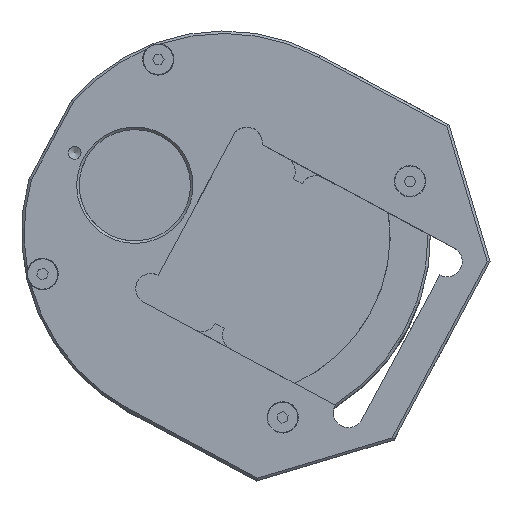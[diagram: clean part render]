
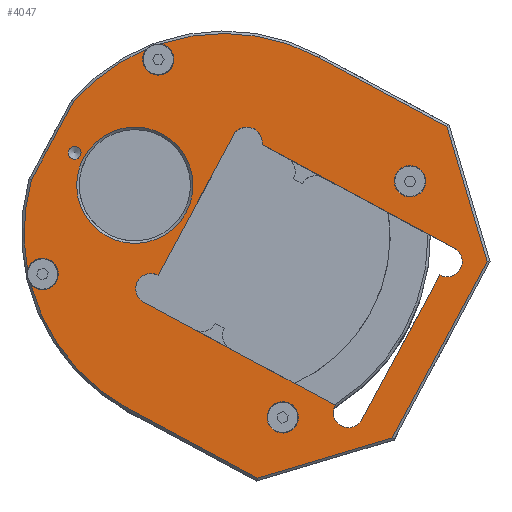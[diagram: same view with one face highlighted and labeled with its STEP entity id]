
A CAD part, top view. The second image highlights one B-rep face of the part: STEP entity #4047.
In plain terms, the highlighted planar face has unit normal (0, 0, 1).
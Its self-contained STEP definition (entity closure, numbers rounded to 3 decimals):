
#248=PLANE('',#13117);
#1309=LINE('',#17504,#2609);
#1340=LINE('',#17617,#2640);
#1341=LINE('',#17619,#2641);
#1342=LINE('',#17621,#2642);
#1343=LINE('',#17623,#2643);
#1344=LINE('',#17625,#2644);
#1345=LINE('',#17633,#2645);
#1346=LINE('',#17648,#2646);
#1347=LINE('',#17652,#2647);
#1348=LINE('',#17656,#2648);
#1349=LINE('',#17658,#2649);
#2609=VECTOR('',#14010,1.);
#2640=VECTOR('',#14117,1.);
#2641=VECTOR('',#14118,1.);
#2642=VECTOR('',#14119,1.);
#2643=VECTOR('',#14120,1.);
#2644=VECTOR('',#14121,1.);
#2645=VECTOR('',#14128,1.);
#2646=VECTOR('',#14143,1.);
#2647=VECTOR('',#14146,1.);
#2648=VECTOR('',#14149,1.);
#2649=VECTOR('',#14150,1.);
#4047=ADVANCED_FACE('',(#5231,#5232,#5233,#5234,#5235,#5236),#248,.T.);
#5231=FACE_BOUND('',#5552,.T.);
#5232=FACE_BOUND('',#5553,.T.);
#5233=FACE_BOUND('',#5554,.T.);
#5234=FACE_BOUND('',#5555,.T.);
#5235=FACE_BOUND('',#5556,.T.);
#5236=FACE_BOUND('',#5557,.T.);
#5552=EDGE_LOOP('',(#6536,#6537,#6538,#6539,#6540,#6541,#6542,#6543,#6544,
#6545,#6546,#6547));
#5553=EDGE_LOOP('',(#6548));
#5554=EDGE_LOOP('',(#6549));
#5555=EDGE_LOOP('',(#6550));
#5556=EDGE_LOOP('',(#6551,#6552,#6553,#6554,#6555,#6556,#6557,#6558,#6559));
#5557=EDGE_LOOP('',(#6560));
#6536=ORIENTED_EDGE('',*,*,#11156,.T.);
#6537=ORIENTED_EDGE('',*,*,#11157,.T.);
#6538=ORIENTED_EDGE('',*,*,#11158,.T.);
#6539=ORIENTED_EDGE('',*,*,#11159,.T.);
#6540=ORIENTED_EDGE('',*,*,#11160,.T.);
#6541=ORIENTED_EDGE('',*,*,#11161,.T.);
#6542=ORIENTED_EDGE('',*,*,#11162,.T.);
#6543=ORIENTED_EDGE('',*,*,#11163,.T.);
#6544=ORIENTED_EDGE('',*,*,#11164,.T.);
#6545=ORIENTED_EDGE('',*,*,#11165,.T.);
#6546=ORIENTED_EDGE('',*,*,#11166,.T.);
#6547=ORIENTED_EDGE('',*,*,#11167,.F.);
#6548=ORIENTED_EDGE('',*,*,#11168,.F.);
#6549=ORIENTED_EDGE('',*,*,#11169,.T.);
#6550=ORIENTED_EDGE('',*,*,#11170,.T.);
#6551=ORIENTED_EDGE('',*,*,#11171,.T.);
#6552=ORIENTED_EDGE('',*,*,#11099,.F.);
#6553=ORIENTED_EDGE('',*,*,#11172,.T.);
#6554=ORIENTED_EDGE('',*,*,#11173,.T.);
#6555=ORIENTED_EDGE('',*,*,#11174,.T.);
#6556=ORIENTED_EDGE('',*,*,#11175,.T.);
#6557=ORIENTED_EDGE('',*,*,#11176,.T.);
#6558=ORIENTED_EDGE('',*,*,#11177,.F.);
#6559=ORIENTED_EDGE('',*,*,#11178,.F.);
#6560=ORIENTED_EDGE('',*,*,#11179,.T.);
#9889=VERTEX_POINT('',#17503);
#9890=VERTEX_POINT('',#17505);
#9932=VERTEX_POINT('',#17615);
#9933=VERTEX_POINT('',#17616);
#9934=VERTEX_POINT('',#17618);
#9935=VERTEX_POINT('',#17620);
#9936=VERTEX_POINT('',#17622);
#9937=VERTEX_POINT('',#17624);
#9938=VERTEX_POINT('',#17626);
#9939=VERTEX_POINT('',#17628);
#9940=VERTEX_POINT('',#17630);
#9941=VERTEX_POINT('',#17632);
#9942=VERTEX_POINT('',#17634);
#9943=VERTEX_POINT('',#17636);
#9944=VERTEX_POINT('',#17639);
#9945=VERTEX_POINT('',#17641);
#9946=VERTEX_POINT('',#17643);
#9947=VERTEX_POINT('',#17645);
#9948=VERTEX_POINT('',#17647);
#9949=VERTEX_POINT('',#17649);
#9950=VERTEX_POINT('',#17651);
#9951=VERTEX_POINT('',#17653);
#9952=VERTEX_POINT('',#17655);
#9953=VERTEX_POINT('',#17657);
#9954=VERTEX_POINT('',#17660);
#11099=EDGE_CURVE('',#9889,#9890,#1309,.T.);
#11156=EDGE_CURVE('',#9932,#9933,#12836,.T.);
#11157=EDGE_CURVE('',#9933,#9934,#1340,.T.);
#11158=EDGE_CURVE('',#9934,#9935,#1341,.T.);
#11159=EDGE_CURVE('',#9935,#9936,#1342,.T.);
#11160=EDGE_CURVE('',#9936,#9937,#1343,.T.);
#11161=EDGE_CURVE('',#9937,#9938,#1344,.T.);
#11162=EDGE_CURVE('',#9938,#9939,#12837,.T.);
#11163=EDGE_CURVE('',#9939,#9940,#12838,.T.);
#11164=EDGE_CURVE('',#9940,#9941,#12839,.T.);
#11165=EDGE_CURVE('',#9941,#9942,#1345,.T.);
#11166=EDGE_CURVE('',#9942,#9943,#12840,.T.);
#11167=EDGE_CURVE('',#9932,#9943,#12841,.T.);
#11168=EDGE_CURVE('',#9944,#9944,#12842,.T.);
#11169=EDGE_CURVE('',#9945,#9945,#12843,.T.);
#11170=EDGE_CURVE('',#9946,#9946,#12844,.T.);
#11171=EDGE_CURVE('',#9947,#9890,#12845,.T.);
#11172=EDGE_CURVE('',#9889,#9948,#12846,.T.);
#11173=EDGE_CURVE('',#9948,#9949,#1346,.T.);
#11174=EDGE_CURVE('',#9949,#9950,#12847,.T.);
#11175=EDGE_CURVE('',#9950,#9951,#1347,.T.);
#11176=EDGE_CURVE('',#9951,#9952,#12848,.T.);
#11177=EDGE_CURVE('',#9953,#9952,#1348,.T.);
#11178=EDGE_CURVE('',#9947,#9953,#1349,.T.);
#11179=EDGE_CURVE('',#9954,#9954,#12849,.T.);
#12836=CIRCLE('',#13103,39.5);
#12837=CIRCLE('',#13104,39.5);
#12838=CIRCLE('',#13105,3.1);
#12839=CIRCLE('',#13106,39.5);
#12840=CIRCLE('',#13107,39.5);
#12841=CIRCLE('',#13108,3.1);
#12842=CIRCLE('',#13109,3.1);
#12843=CIRCLE('',#13110,3.1);
#12844=CIRCLE('',#13111,1.25);
#12845=CIRCLE('',#13112,3.);
#12846=CIRCLE('',#13113,3.);
#12847=CIRCLE('',#13114,3.);
#12848=CIRCLE('',#13115,3.);
#12849=CIRCLE('',#13116,11.5);
#13103=AXIS2_PLACEMENT_3D('',#17614,#14115,#14116);
#13104=AXIS2_PLACEMENT_3D('',#17627,#14122,#14123);
#13105=AXIS2_PLACEMENT_3D('',#17629,#14124,#14125);
#13106=AXIS2_PLACEMENT_3D('',#17631,#14126,#14127);
#13107=AXIS2_PLACEMENT_3D('',#17635,#14129,#14130);
#13108=AXIS2_PLACEMENT_3D('',#17637,#14131,#14132);
#13109=AXIS2_PLACEMENT_3D('',#17638,#14133,#14134);
#13110=AXIS2_PLACEMENT_3D('',#17640,#14135,#14136);
#13111=AXIS2_PLACEMENT_3D('',#17642,#14137,#14138);
#13112=AXIS2_PLACEMENT_3D('',#17644,#14139,#14140);
#13113=AXIS2_PLACEMENT_3D('',#17646,#14141,#14142);
#13114=AXIS2_PLACEMENT_3D('',#17650,#14144,#14145);
#13115=AXIS2_PLACEMENT_3D('',#17654,#14147,#14148);
#13116=AXIS2_PLACEMENT_3D('',#17659,#14151,#14152);
#13117=AXIS2_PLACEMENT_3D('',#17661,#14153,#14154);
#14010=DIRECTION('',(-0.88,0.474,0.));
#14115=DIRECTION('',(0.,0.,1.));
#14116=DIRECTION('',(-0.474,-0.88,0.));
#14117=DIRECTION('',(0.88,-0.474,0.));
#14118=DIRECTION('',(0.958,0.287,0.));
#14119=DIRECTION('',(0.474,0.88,0.));
#14120=DIRECTION('',(-0.287,0.958,0.));
#14121=DIRECTION('',(-0.88,0.474,0.));
#14122=DIRECTION('',(0.,0.,1.));
#14123=DIRECTION('',(-0.474,-0.88,0.));
#14124=DIRECTION('',(0.,0.,-1.));
#14125=DIRECTION('',(-0.918,0.396,0.));
#14126=DIRECTION('',(0.,0.,1.));
#14127=DIRECTION('',(-0.474,-0.88,0.));
#14128=DIRECTION('',(-0.474,-0.88,0.));
#14129=DIRECTION('',(0.,0.,1.));
#14130=DIRECTION('',(-0.474,-0.88,0.));
#14131=DIRECTION('',(0.,0.,1.));
#14132=DIRECTION('',(-0.836,0.549,0.));
#14133=DIRECTION('',(0.,0.,1.));
#14134=DIRECTION('',(-0.474,-0.88,0.));
#14135=DIRECTION('',(0.,0.,-1.));
#14136=DIRECTION('',(0.474,0.88,0.));
#14137=DIRECTION('',(0.,0.,-1.));
#14138=DIRECTION('',(0.474,0.88,0.));
#14139=DIRECTION('',(0.,0.,-1.));
#14140=DIRECTION('',(0.474,0.88,0.));
#14141=DIRECTION('',(0.,0.,-1.));
#14142=DIRECTION('',(0.474,0.88,0.));
#14143=DIRECTION('',(-0.474,-0.88,0.));
#14144=DIRECTION('',(0.,0.,-1.));
#14145=DIRECTION('',(0.474,0.88,0.));
#14146=DIRECTION('',(-0.88,0.474,0.));
#14147=DIRECTION('',(0.,0.,-1.));
#14148=DIRECTION('',(0.474,0.88,0.));
#14149=DIRECTION('',(-0.474,-0.88,0.));
#14150=DIRECTION('',(-0.88,0.474,0.));
#14151=DIRECTION('',(0.,0.,-1.));
#14152=DIRECTION('',(0.474,0.88,0.));
#14153=DIRECTION('',(0.,0.,1.));
#14154=DIRECTION('',(-0.474,-0.88,0.));
#17503=CARTESIAN_POINT('',(37.615,131.952,98.));
#17504=CARTESIAN_POINT('',(37.615,131.952,98.));
#17505=CARTESIAN_POINT('',(-0.387,152.437,98.));
#17614=CARTESIAN_POINT('',(-7.931,134.919,98.));
#17615=CARTESIAN_POINT('',(-46.121,124.83,98.));
#17616=CARTESIAN_POINT('',(-26.673,100.149,98.));
#17617=CARTESIAN_POINT('',(-1.768,86.724,98.));
#17618=CARTESIAN_POINT('',(-1.328,86.487,98.));
#17619=CARTESIAN_POINT('',(25.568,94.542,98.));
#17620=CARTESIAN_POINT('',(25.37,94.483,98.));
#17621=CARTESIAN_POINT('',(44.252,129.511,98.));
#17622=CARTESIAN_POINT('',(44.153,129.328,98.));
#17623=CARTESIAN_POINT('',(36.098,156.225,98.));
#17624=CARTESIAN_POINT('',(36.157,156.027,98.));
#17625=CARTESIAN_POINT('',(10.812,169.689,98.));
#17626=CARTESIAN_POINT('',(10.812,169.689,98.));
#17627=CARTESIAN_POINT('',(-7.931,134.919,98.));
#17628=CARTESIAN_POINT('',(-20.496,172.367,98.));
#17629=CARTESIAN_POINT('',(-20.9,169.293,98.));
#17630=CARTESIAN_POINT('',(-23.233,171.334,98.));
#17631=CARTESIAN_POINT('',(-7.931,134.919,98.));
#17632=CARTESIAN_POINT('',(-37.63,160.961,98.));
#17633=CARTESIAN_POINT('',(-46.038,145.363,98.));
#17634=CARTESIAN_POINT('',(-46.011,145.413,98.));
#17635=CARTESIAN_POINT('',(-7.931,134.919,98.));
#17636=CARTESIAN_POINT('',(-46.762,127.684,98.));
#17637=CARTESIAN_POINT('',(-43.775,126.857,98.));
#17638=CARTESIAN_POINT('',(3.709,98.521,98.));
#17639=CARTESIAN_POINT('',(2.238,95.792,98.));
#17640=CARTESIAN_POINT('',(28.873,145.204,98.));
#17641=CARTESIAN_POINT('',(30.344,147.932,98.));
#17642=CARTESIAN_POINT('',(-37.419,150.815,98.));
#17643=CARTESIAN_POINT('',(-36.826,151.915,98.));
#17644=CARTESIAN_POINT('',(-3.351,152.899,98.));
#17645=CARTESIAN_POINT('',(-5.366,155.121,98.));
#17646=CARTESIAN_POINT('',(36.192,129.311,98.));
#17647=CARTESIAN_POINT('',(34.768,126.67,98.));
#17648=CARTESIAN_POINT('',(37.615,131.952,98.));
#17649=CARTESIAN_POINT('',(19.347,98.062,98.));
#17650=CARTESIAN_POINT('',(16.706,99.486,98.));
#17651=CARTESIAN_POINT('',(14.066,100.909,98.));
#17652=CARTESIAN_POINT('',(19.347,98.062,98.));
#17653=CARTESIAN_POINT('',(-23.785,121.313,98.));
#17654=CARTESIAN_POINT('',(-22.362,123.953,98.));
#17655=CARTESIAN_POINT('',(-20.938,126.594,98.));
#17656=CARTESIAN_POINT('',(-5.517,155.202,98.));
#17657=CARTESIAN_POINT('',(-5.517,155.202,98.));
#17658=CARTESIAN_POINT('',(37.615,131.952,98.));
#17659=CARTESIAN_POINT('',(-25.536,144.409,98.));
#17660=CARTESIAN_POINT('',(-20.079,154.532,98.));
#17661=CARTESIAN_POINT('',(-7.931,134.919,98.));
